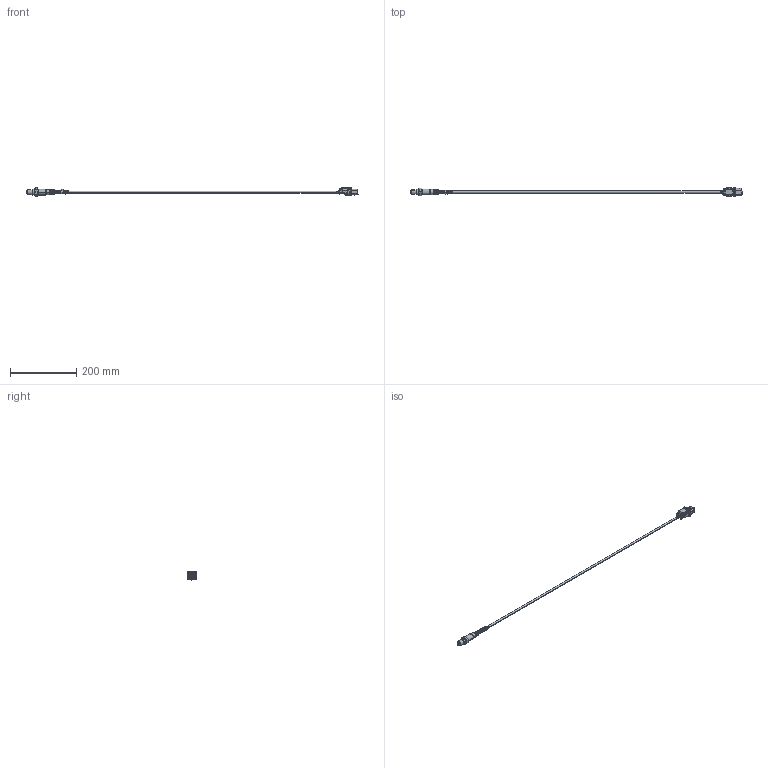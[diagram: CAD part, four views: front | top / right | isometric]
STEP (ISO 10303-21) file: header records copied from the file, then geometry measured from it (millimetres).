
FILE_DESCRIPTION(('CATIA V5 STEP Exchange'),'2;1');
FILE_NAME('\\bosch.com\dfsrb\DfsDE\DIV\BEG\MSD\Gruppen\MSDP\01_Austausch\!Limitierte Beschäftigte\Praktikanten\HnA\3D Modelle Katalog\Neu\Sensoren\Lambda\LSU_4.9_Automotive_Connector.stp','2014-01-10T10:08:02+00:00',('none'),('none'),'CATIA Version 5 Release 19 SP 9 (IN-10)','CATIA V5 STEP AP214','none');
FILE_SCHEMA(('AUTOMOTIVE_DESIGN { 1 0 10303 214 1 1 1 1 }'));
Length unit declared in the file: millimetre
Products named in the file (1): LSU_4.9_Automotive_Connector
Bounding box: 1000 x 27.61 x 26 mm (x, y, z)
Volume: 65214.9 mm3; surface area: 33316 mm2
Topology: 1 solids, 1 shells, 1645 faces, 4492 edges, 2890 vertices
Faces by surface type: cylinder 575, plane 439, torus 350, bspline 226, cone 36, sphere 14, extrusion 5
Entity records: 66116 total; most frequent: CARTESIAN_POINT 27821, ORIENTED_EDGE 8960, DIRECTION 5827, EDGE_CURVE 4480, VERTEX_POINT 2890, AXIS2_PLACEMENT_3D 2862, EDGE_LOOP 1706, ADVANCED_FACE 1645
